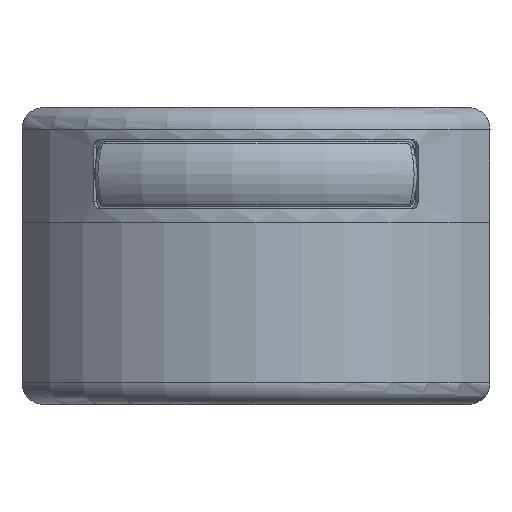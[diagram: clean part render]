
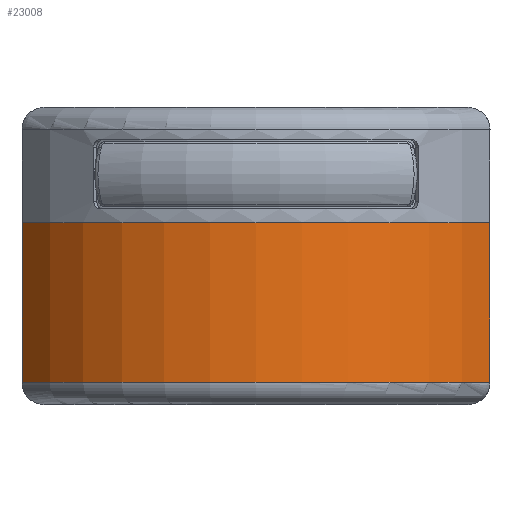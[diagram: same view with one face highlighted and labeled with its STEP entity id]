
A CAD part, front view. The second image highlights one B-rep face of the part: STEP entity #23008.
In plain terms, the highlighted cylindrical face has radius 37 mm (diameter 74 mm), a partial arc.
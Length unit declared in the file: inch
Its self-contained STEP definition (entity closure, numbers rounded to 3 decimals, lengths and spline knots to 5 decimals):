
#32 = DIRECTION ( 'NONE',  ( 0., 0., -1. ) ) ;
#2052 = DIRECTION ( 'NONE',  ( 0., 0., -1. ) ) ;
#2138 = CYLINDRICAL_SURFACE ( 'NONE', #2808, 1.45669 ) ;
#2808 = AXIS2_PLACEMENT_3D ( 'NONE', #7784, #2052, #4075 ) ;
#3088 = DIRECTION ( 'NONE',  ( 0., 0., 1. ) ) ;
#3166 = EDGE_CURVE ( 'NONE', #12919, #4676, #15739, .T. ) ;
#4075 = DIRECTION ( 'NONE',  ( 0., -1., 0. ) ) ;
#4483 = CARTESIAN_POINT ( 'NONE',  ( 0., -1.98779, -0.66929 ) ) ;
#4566 = FACE_OUTER_BOUND ( 'NONE', #13825, .T. ) ;
#4676 = VERTEX_POINT ( 'NONE', #22276 ) ;
#6415 = DIRECTION ( 'NONE',  ( 0., 1., 0. ) ) ;
#7784 = CARTESIAN_POINT ( 'NONE',  ( 0., -1.98779, 0.7874 ) ) ;
#7800 = VECTOR ( 'NONE', #10403, 39.37008 ) ;
#8149 = EDGE_CURVE ( 'NONE', #22260, #4676, #12903, .T. ) ;
#9608 = ORIENTED_EDGE ( 'NONE', *, *, #10319, .T. ) ;
#10319 = EDGE_CURVE ( 'NONE', #14865, #12919, #22027, .T. ) ;
#10403 = DIRECTION ( 'NONE',  ( 0., 0., -1. ) ) ;
#11660 = CARTESIAN_POINT ( 'NONE',  ( -1.24016, -2.75197, 0.7874 ) ) ;
#12903 = LINE ( 'NONE', #16107, #7800 ) ;
#12919 = VERTEX_POINT ( 'NONE', #15183 ) ;
#13825 = EDGE_LOOP ( 'NONE', ( #19842, #17538, #9608, #17436 ) ) ;
#14196 = CARTESIAN_POINT ( 'NONE',  ( -1.24016, -2.75197, 0.17717 ) ) ;
#14626 = CARTESIAN_POINT ( 'NONE',  ( 0., -1.98779, 0.17717 ) ) ;
#14865 = VERTEX_POINT ( 'NONE', #14196 ) ;
#15183 = CARTESIAN_POINT ( 'NONE',  ( -1.24016, -2.75197, -0.66929 ) ) ;
#15211 = CARTESIAN_POINT ( 'NONE',  ( 1.24016, -2.75197, 0.17717 ) ) ;
#15709 = CIRCLE ( 'NONE', #24284, 1.45669 ) ;
#15739 = CIRCLE ( 'NONE', #24146, 1.45669 ) ;
#16107 = CARTESIAN_POINT ( 'NONE',  ( 1.24016, -2.75197, 0.7874 ) ) ;
#16548 = DIRECTION ( 'NONE',  ( 0., -1., 0. ) ) ;
#17436 = ORIENTED_EDGE ( 'NONE', *, *, #3166, .T. ) ;
#17538 = ORIENTED_EDGE ( 'NONE', *, *, #19666, .F. ) ;
#17961 = DIRECTION ( 'NONE',  ( 0., 0., 1. ) ) ;
#19666 = EDGE_CURVE ( 'NONE', #14865, #22260, #15709, .T. ) ;
#19842 = ORIENTED_EDGE ( 'NONE', *, *, #8149, .F. ) ;
#21425 = VECTOR ( 'NONE', #32, 39.37008 ) ;
#22027 = LINE ( 'NONE', #11660, #21425 ) ;
#22260 = VERTEX_POINT ( 'NONE', #15211 ) ;
#22276 = CARTESIAN_POINT ( 'NONE',  ( 1.24016, -2.75197, -0.66929 ) ) ;
#23008 = ADVANCED_FACE ( 'NONE', ( #4566 ), #2138, .T. ) ;
#24146 = AXIS2_PLACEMENT_3D ( 'NONE', #4483, #17961, #6415 ) ;
#24284 = AXIS2_PLACEMENT_3D ( 'NONE', #14626, #3088, #16548 ) ;
